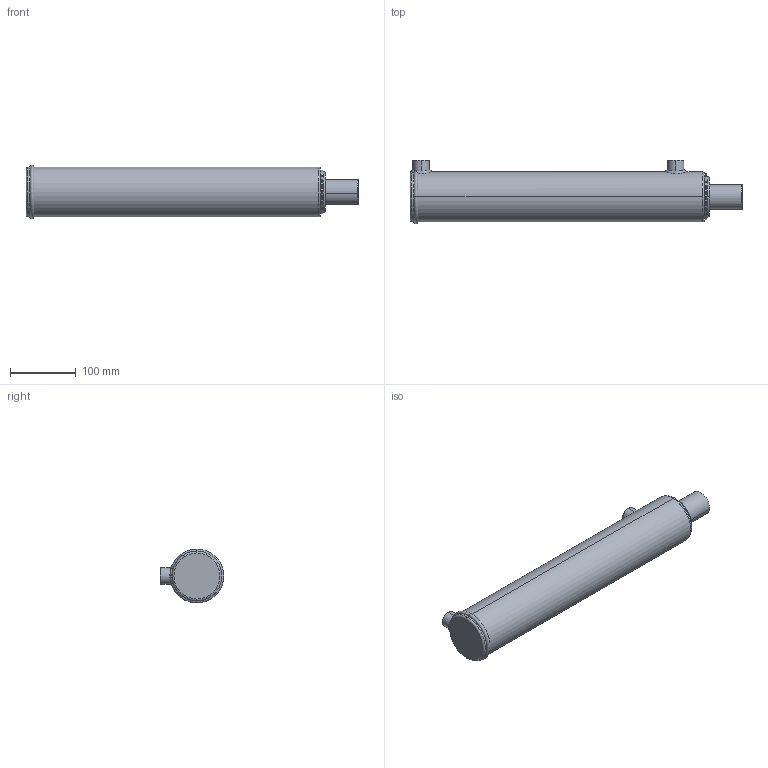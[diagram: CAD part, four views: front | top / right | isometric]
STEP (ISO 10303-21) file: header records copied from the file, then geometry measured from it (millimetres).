
FILE_DESCRIPTION (( 'STEP AP203' ), '1' );
FILE_NAME ('BL250150x355 (14).STEP', '2014-11-25T01:24:34', ( '' ), ( '' ), 'SwSTEP 2.0', 'SolidWorks 2014', '' );
FILE_SCHEMA (( 'CONFIG_CONTROL_DESIGN' ));
Length unit declared in the file: millimetre
Products named in the file (3): Spare_2.5x14; BL250150x355 (14); BL body 2.5_2.5x14
Assembly tree (2 placements, depth 2):
  BL250150x355 (14)
    BL body 2.5_2.5x14
    Spare_2.5x14
Bounding box: 506 x 97.2 x 82.2 mm (x, y, z)
Volume: 2313621.8 mm3; surface area: 210118 mm2
Topology: 2 solids, 2 shells, 88 faces, 205 edges, 126 vertices
Faces by surface type: cylinder 32, plane 20, torus 18, bspline 10, cone 8
Entity records: 5772 total; most frequent: CARTESIAN_POINT 3521, DIRECTION 422, ORIENTED_EDGE 402, EDGE_CURVE 201, AXIS2_PLACEMENT_3D 182, VERTEX_POINT 126, EDGE_LOOP 101, CIRCLE 99
